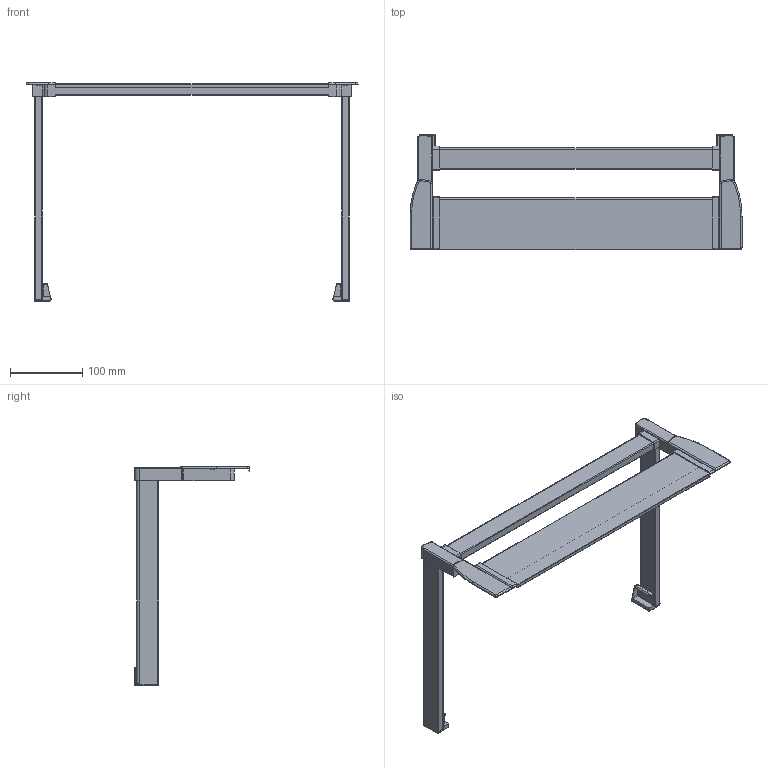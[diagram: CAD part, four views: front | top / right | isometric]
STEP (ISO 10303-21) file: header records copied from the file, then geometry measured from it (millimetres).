
FILE_DESCRIPTION (( 'STEP AP214' ), '1' );
FILE_NAME ('1_P620_NL 300_KAB 500_16er KS_.step', '2009-09-16T06:29:11', ( 'Waldinger Reinhard' ), ( 'Grass GmbH' ), 'SwSTEP 2.0', 'SolidWorks 2009', '' );
FILE_SCHEMA (( 'AUTOMOTIVE_DESIGN' ));
Length unit declared in the file: millimetre
Products named in the file (1): 1_P620_NL 300_KAB 500_16er KS_
Bounding box: 459.6 x 160.5 x 302.8 mm (x, y, z)
Volume: 741788.6 mm3; surface area: 177412.3 mm2
Topology: 1 solids, 1 shells, 220 faces, 578 edges, 364 vertices
Faces by surface type: plane 97, cylinder 91, torus 28, sphere 2, bspline 2
Entity records: 7004 total; most frequent: CARTESIAN_POINT 1345, DIRECTION 1198, ORIENTED_EDGE 1152, EDGE_CURVE 576, AXIS2_PLACEMENT_3D 433, VERTEX_POINT 364, VECTOR 332, LINE 332
